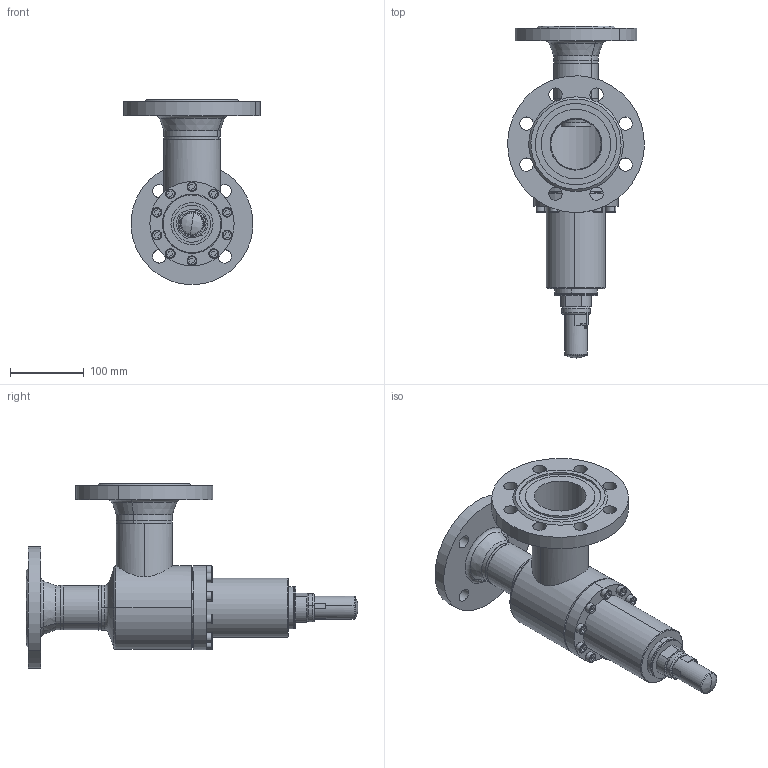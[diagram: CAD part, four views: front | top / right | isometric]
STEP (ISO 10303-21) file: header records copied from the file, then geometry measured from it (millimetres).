
FILE_DESCRIPTION (( 'STEP AP214' ), '1' );
FILE_NAME ('ORV 452FL-D15-DN50''65_DIN-FL_PS40.STEP', '2010-06-17T08:25:05', ( 'Eckhard Grams' ), ( 'AWP Kälte Klima Armaturen GmbH' ), 'SwSTEP 2.0', 'SolidWorks 2002296', '' );
FILE_SCHEMA (( 'AUTOMOTIVE_DESIGN' ));
Length unit declared in the file: millimetre
Products named in the file (16): ORV 452FL-D15-DN50''65_DIN-FL_PS40; Kappe SVA-SVU-ORV_DN10-40 (M27x1,5)_Standard; Haube-ORV-DN40-50_Standard; Loser-Fl44200E14-DN40-SVU_PS40_(DN40-50-SVA-ORV)_Standard; Geh,kpl 43220E15-DN50''65_DIN-FL_PS40_Standard; Geh-kpl43200E15-DN50''65_R1_PS40_Standard; bead43200E15-Geh-kpl-PS40_Standard; Rohrstutzen-E43200E15-DN50_R1_STANDARD; Rohrstutzen43200E15-DN50''65_R1_STANDARD; Geh-körper,kpl43200E15-DN50_PS40_R1_Standard; Flansch-DIN2635-Nut_PS40_DIN-Flansch-DN065_PS40-Nut; Flansch-DIN2635-Nut_PS40_DIN-Flansch-DN050_PS40-Nut; bead43220E15-Geh-kpl_PS40b_Standard; bead43220E15-Geh-kpl_PS40a_Standard; Deckel_ORV_DN40-50_Standard; Zylinderschraube-DIN912-M 8x30_M 8x 25
Assembly tree (24 placements, depth 4):
  ORV 452FL-D15-DN50''65_DIN-FL_PS40
    Kappe SVA-SVU-ORV_DN10-40 (M27x1,5)_Standard
    Zylinderschraube-DIN912-M 8x30_M 8x 25  x10
    Deckel_ORV_DN40-50_Standard
    Loser-Fl44200E14-DN40-SVU_PS40_(DN40-50-SVA-ORV)_Standard
    Geh,kpl 43220E15-DN50''65_DIN-FL_PS40_Standard
      Flansch-DIN2635-Nut_PS40_DIN-Flansch-DN050_PS40-Nut
      bead43220E15-Geh-kpl_PS40a_Standard
      bead43220E15-Geh-kpl_PS40b_Standard
      Geh-kpl43200E15-DN50''65_R1_PS40_Standard
        Rohrstutzen-E43200E15-DN50_R1_STANDARD
        Rohrstutzen43200E15-DN50''65_R1_STANDARD
        bead43200E15-Geh-kpl-PS40_Standard
        Geh-körper,kpl43200E15-DN50_PS40_R1_Standard
      Flansch-DIN2635-Nut_PS40_DIN-Flansch-DN065_PS40-Nut
    Haube-ORV-DN40-50_Standard
Bounding box: 184.82 x 449 x 250.19 mm (x, y, z)
Volume: 1629131.7 mm3; surface area: 445878.6 mm2
Topology: 22 solids, 22 shells, 995 faces, 2616 edges, 1683 vertices
Faces by surface type: cylinder 622, plane 170, cone 110, torus 49, bspline 40, sphere 4
Entity records: 30395 total; most frequent: CARTESIAN_POINT 18474, ORIENTED_EDGE 2290, DIRECTION 2265, EDGE_CURVE 1145, AXIS2_PLACEMENT_3D 939, VERTEX_POINT 729, EDGE_LOOP 556, CIRCLE 468
